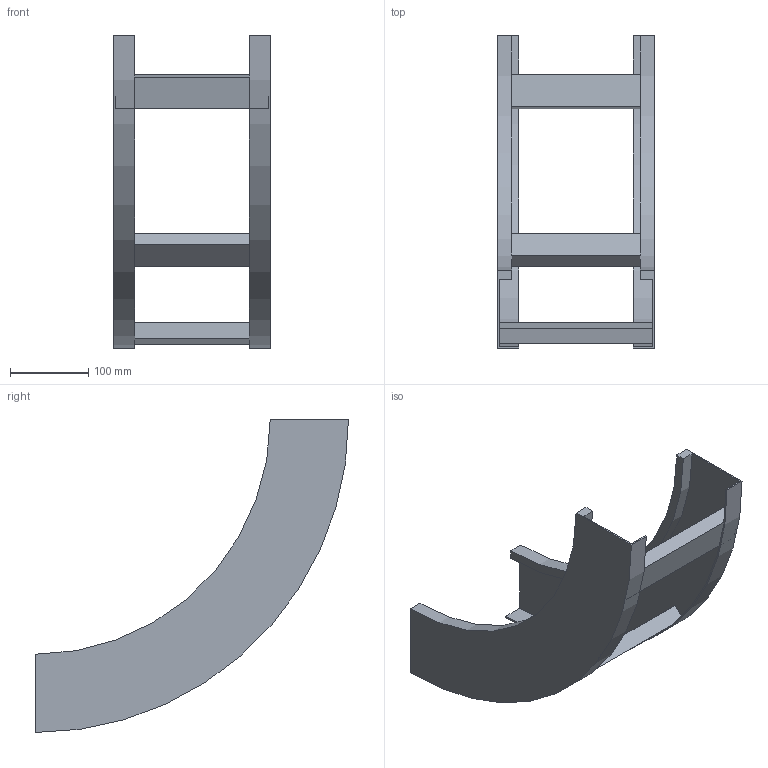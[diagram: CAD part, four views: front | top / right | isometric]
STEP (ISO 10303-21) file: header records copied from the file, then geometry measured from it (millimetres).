
FILE_DESCRIPTION (( 'STEP AP214' ), '1' );
FILE_NAME ('B2X30B3D200XX.step', '2025-03-20T10:20:06', ( '' ), ( '' ), 'SwSTEP 2.0', 'SolidWorks 2023', '' );
FILE_SCHEMA (( 'AUTOMOTIVE_DESIGN' ));
Length unit declared in the file: millimetre
Products named in the file (3): B2X30B3D200XX; B2_LONGH.SALITA_90°_H100_R300; TRAVERSINO_200
Assembly tree (5 placements, depth 2):
  B2X30B3D200XX
    B2_LONGH.SALITA_90°_H100_R300  x2
    TRAVERSINO_200  x3
Bounding box: 200 x 400 x 400 mm (x, y, z)
Volume: 943441.1 mm3; surface area: 395523 mm2
Topology: 5 solids, 5 shells, 38 faces, 84 edges, 56 vertices
Faces by surface type: plane 30, cylinder 8
Entity records: 560 total; most frequent: DIRECTION 92, CARTESIAN_POINT 84, ORIENTED_EDGE 72, EDGE_CURVE 36, AXIS2_PLACEMENT_3D 32, VECTOR 28, LINE 28, VERTEX_POINT 24
